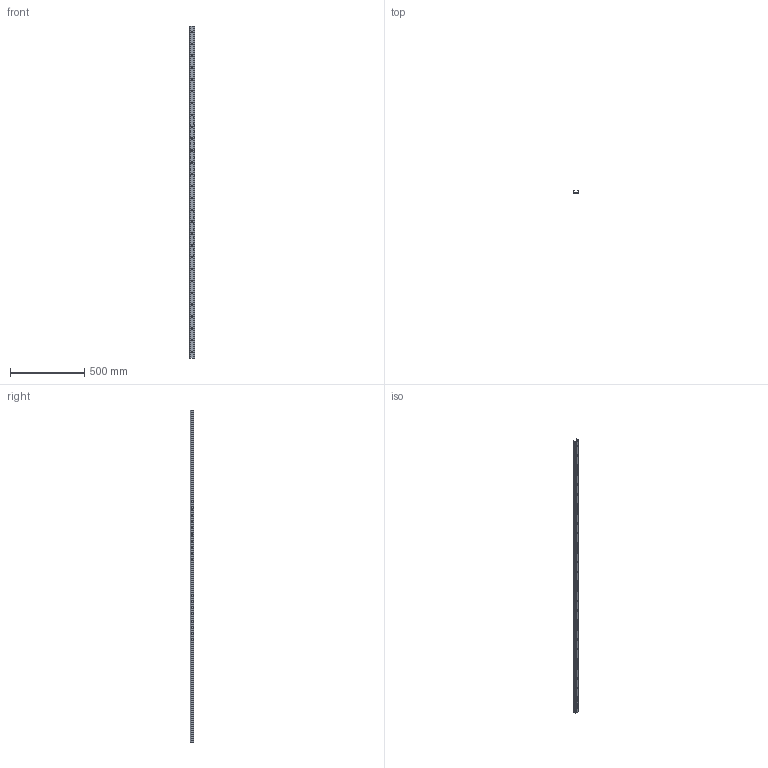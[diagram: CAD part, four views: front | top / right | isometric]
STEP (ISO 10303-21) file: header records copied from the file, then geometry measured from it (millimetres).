
FILE_DESCRIPTION(('STEP AP214'),'1');
FILE_NAME('rail_tex40-2240.stp','2019-03-08T08:33:35',('TraceParts'),('TraceParts S.A.'),'Spatial InterOp 3D',' ',' ');
FILE_SCHEMA(('automotive_design'));
Length unit declared in the file: millimetre
Products named in the file (1): rail_tex40-2240
Bounding box: 39.53 x 21 x 2240 mm (x, y, z)
Volume: 437966.5 mm3; surface area: 308553.4 mm2
Topology: 1 solids, 1 shells, 481 faces, 1248 edges, 832 vertices
Faces by surface type: plane 336, bspline 77, cylinder 68
Entity records: 30333 total; most frequent: CARTESIAN_POINT 14931, ORIENTED_EDGE 2496, DIRECTION 2040, EDGE_CURVE 1248, LINE 958, VECTOR 958, VERTEX_POINT 832, EDGE_LOOP 600
